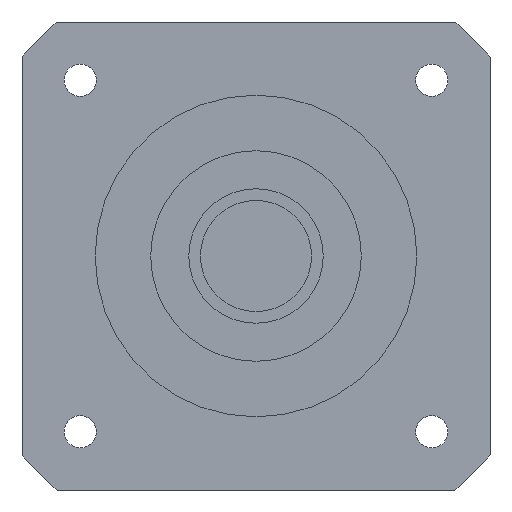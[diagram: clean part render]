
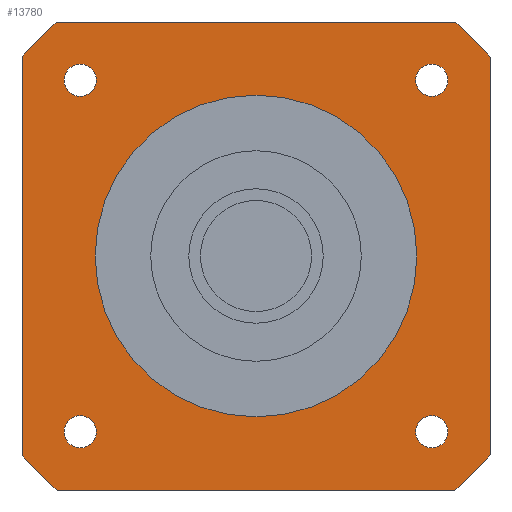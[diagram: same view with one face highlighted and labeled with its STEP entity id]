
A CAD part, left-side view. The second image highlights one B-rep face of the part: STEP entity #13780.
In plain terms, the highlighted planar face has unit normal (-1, 0, 0) as drawn and (0, 0, -1) by its records, which use the part's own axes.
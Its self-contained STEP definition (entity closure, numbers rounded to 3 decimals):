
#12150=CARTESIAN_POINT('',(-30.052,32.802,-42.2));
#12160=VERTEX_POINT('',#12150);
#12240=CARTESIAN_POINT('',(-30.052,27.302,-42.2));
#12250=VERTEX_POINT('',#12240);
#12280=CARTESIAN_POINT('',(-30.052,30.052,-42.2));
#12290=DIRECTION('',(0.,0.,1.));
#12300=DIRECTION('',(0.,1.,0.));
#12310=AXIS2_PLACEMENT_3D('',#12280,#12290,#12300);
#12320=CIRCLE('',#12310,2.75);
#12330=EDGE_CURVE('',#12250,#12160,#12320,.T.);
#12380=CARTESIAN_POINT('',(40.,-40.,-42.2));
#12390=DIRECTION('',(0.,0.,1.));
#12400=DIRECTION('',(0.,1.,0.));
#12410=AXIS2_PLACEMENT_3D('',#12380,#12390,#12400);
#12420=PLANE('',#12410);
#12430=CARTESIAN_POINT('',(-30.052,-30.052,-42.2));
#12440=DIRECTION('',(0.,0.,1.));
#12450=DIRECTION('',(0.,1.,0.));
#12460=AXIS2_PLACEMENT_3D('',#12430,#12440,#12450);
#12470=CIRCLE('',#12460,2.75);
#12480=CARTESIAN_POINT('',(-30.052,-27.302,-42.2));
#12490=VERTEX_POINT('',#12480);
#12500=CARTESIAN_POINT('',(-30.052,-32.802,-42.2));
#12510=VERTEX_POINT('',#12500);
#12520=EDGE_CURVE('',#12490,#12510,#12470,.T.);
#12530=ORIENTED_EDGE('',*,*,#12520,.T.);
#12540=EDGE_CURVE('',#12510,#12490,#12470,.T.);
#12550=ORIENTED_EDGE('',*,*,#12540,.T.);
#12560=EDGE_LOOP('',(#12550,#12530));
#12570=FACE_BOUND('',#12560,.T.);
#12580=CARTESIAN_POINT('',(30.052,30.052,-42.2));
#12590=DIRECTION('',(0.,0.,1.));
#12600=DIRECTION('',(0.,1.,0.));
#12610=AXIS2_PLACEMENT_3D('',#12580,#12590,#12600);
#12620=CIRCLE('',#12610,2.75);
#12630=CARTESIAN_POINT('',(30.052,32.802,-42.2));
#12640=VERTEX_POINT('',#12630);
#12650=CARTESIAN_POINT('',(30.052,27.302,-42.2));
#12660=VERTEX_POINT('',#12650);
#12670=EDGE_CURVE('',#12640,#12660,#12620,.T.);
#12680=ORIENTED_EDGE('',*,*,#12670,.T.);
#12690=EDGE_CURVE('',#12660,#12640,#12620,.T.);
#12700=ORIENTED_EDGE('',*,*,#12690,.T.);
#12710=EDGE_LOOP('',(#12700,#12680));
#12720=FACE_BOUND('',#12710,.T.);
#12730=EDGE_CURVE('',#12160,#12250,#12320,.T.);
#12740=ORIENTED_EDGE('',*,*,#12730,.T.);
#12750=ORIENTED_EDGE('',*,*,#12330,.T.);
#12760=EDGE_LOOP('',(#12750,#12740));
#12770=FACE_BOUND('',#12760,.T.);
#12780=CARTESIAN_POINT('',(0.,0.,
-42.2));
#12790=DIRECTION('',(0.,0.,1.));
#12800=DIRECTION('',(0.,-1.,0.));
#12810=AXIS2_PLACEMENT_3D('',#12780,#12790,#12800);
#12820=CIRCLE('',#12810,27.5);
#12830=CARTESIAN_POINT('',(0.,-27.5,-42.2));
#12840=VERTEX_POINT('',#12830);
#12850=CARTESIAN_POINT('',(0.,27.5,-42.2));
#12860=VERTEX_POINT('',#12850);
#12870=EDGE_CURVE('',#12840,#12860,#12820,.T.);
#12880=ORIENTED_EDGE('',*,*,#12870,.T.);
#12890=EDGE_CURVE('',#12860,#12840,#12820,.T.);
#12900=ORIENTED_EDGE('',*,*,#12890,.T.);
#12910=EDGE_LOOP('',(#12900,#12880));
#12920=FACE_BOUND('',#12910,.T.);
#12930=CARTESIAN_POINT('',(30.052,-30.052,-42.2));
#12940=DIRECTION('',(0.,0.,1.));
#12950=DIRECTION('',(0.,1.,0.));
#12960=AXIS2_PLACEMENT_3D('',#12930,#12940,#12950);
#12970=CIRCLE('',#12960,2.75);
#12980=CARTESIAN_POINT('',(30.052,-27.302,-42.2));
#12990=VERTEX_POINT('',#12980);
#13000=CARTESIAN_POINT('',(30.052,-32.802,-42.2));
#13010=VERTEX_POINT('',#13000);
#13020=EDGE_CURVE('',#12990,#13010,#12970,.T.);
#13030=ORIENTED_EDGE('',*,*,#13020,.T.);
#13040=EDGE_CURVE('',#13010,#12990,#12970,.T.);
#13050=ORIENTED_EDGE('',*,*,#13040,.T.);
#13060=EDGE_LOOP('',(#13050,#13030));
#13070=FACE_BOUND('',#13060,.T.);
#13080=CARTESIAN_POINT('',(0.,0.,
-42.2));
#13090=DIRECTION('',(0.,0.,1.));
#13100=DIRECTION('',(0.,1.,0.));
#13110=AXIS2_PLACEMENT_3D('',#13080,#13090,#13100);
#13120=CIRCLE('',#13110,52.5);
#13130=CARTESIAN_POINT('',(-34.004,40.,-42.2));
#13140=VERTEX_POINT('',#13130);
#13150=CARTESIAN_POINT('',(-40.,34.004,-42.2));
#13160=VERTEX_POINT('',#13150);
#13170=EDGE_CURVE('',#13140,#13160,#13120,.T.);
#13180=ORIENTED_EDGE('',*,*,#13170,.F.);
#13190=CARTESIAN_POINT('',(-40.,40.,-42.2));
#13200=DIRECTION('',(0.,-1.,0.));
#13210=VECTOR('',#13200,1000.);
#13220=LINE('',#13190,#13210);
#13230=CARTESIAN_POINT('',(-40.,-34.004,-42.2));
#13240=VERTEX_POINT('',#13230);
#13250=EDGE_CURVE('',#13160,#13240,#13220,.T.);
#13260=ORIENTED_EDGE('',*,*,#13250,.F.);
#13270=CARTESIAN_POINT('',(0.,0.,
-42.2));
#13280=DIRECTION('',(0.,0.,1.));
#13290=DIRECTION('',(0.,1.,0.));
#13300=AXIS2_PLACEMENT_3D('',#13270,#13280,#13290);
#13310=CIRCLE('',#13300,52.5);
#13320=CARTESIAN_POINT('',(-34.004,-40.,-42.2));
#13330=VERTEX_POINT('',#13320);
#13340=EDGE_CURVE('',#13240,#13330,#13310,.T.);
#13350=ORIENTED_EDGE('',*,*,#13340,.F.);
#13360=CARTESIAN_POINT('',(-40.,-40.,-42.2));
#13370=DIRECTION('',(1.,0.,0.));
#13380=VECTOR('',#13370,1000.);
#13390=LINE('',#13360,#13380);
#13400=CARTESIAN_POINT('',(34.004,-40.,-42.2));
#13410=VERTEX_POINT('',#13400);
#13420=EDGE_CURVE('',#13330,#13410,#13390,.T.);
#13430=ORIENTED_EDGE('',*,*,#13420,.F.);
#13440=CARTESIAN_POINT('',(0.,0.,
-42.2));
#13450=DIRECTION('',(0.,0.,1.));
#13460=DIRECTION('',(0.,1.,0.));
#13470=AXIS2_PLACEMENT_3D('',#13440,#13450,#13460);
#13480=CIRCLE('',#13470,52.5);
#13490=CARTESIAN_POINT('',(40.,-34.004,-42.2));
#13500=VERTEX_POINT('',#13490);
#13510=EDGE_CURVE('',#13410,#13500,#13480,.T.);
#13520=ORIENTED_EDGE('',*,*,#13510,.F.);
#13530=CARTESIAN_POINT('',(40.,-40.,-42.2));
#13540=DIRECTION('',(0.,1.,0.));
#13550=VECTOR('',#13540,1000.);
#13560=LINE('',#13530,#13550);
#13570=CARTESIAN_POINT('',(40.,34.004,-42.2));
#13580=VERTEX_POINT('',#13570);
#13590=EDGE_CURVE('',#13500,#13580,#13560,.T.);
#13600=ORIENTED_EDGE('',*,*,#13590,.F.);
#13610=CARTESIAN_POINT('',(0.,0.,
-42.2));
#13620=DIRECTION('',(0.,0.,1.));
#13630=DIRECTION('',(0.,1.,0.));
#13640=AXIS2_PLACEMENT_3D('',#13610,#13620,#13630);
#13650=CIRCLE('',#13640,52.5);
#13660=CARTESIAN_POINT('',(34.004,40.,-42.2));
#13670=VERTEX_POINT('',#13660);
#13680=EDGE_CURVE('',#13580,#13670,#13650,.T.);
#13690=ORIENTED_EDGE('',*,*,#13680,.F.);
#13700=CARTESIAN_POINT('',(40.,40.,-42.2));
#13710=DIRECTION('',(-1.,0.,0.));
#13720=VECTOR('',#13710,1000.);
#13730=LINE('',#13700,#13720);
#13740=EDGE_CURVE('',#13670,#13140,#13730,.T.);
#13750=ORIENTED_EDGE('',*,*,#13740,.F.);
#13760=EDGE_LOOP('',(#13750,#13690,#13600,#13520,#13430,#13350,#13260,
#13180));
#13770=FACE_OUTER_BOUND('',#13760,.T.);
#13780=ADVANCED_FACE('',(#12570,#12720,#12770,#12920,#13070,#13770),
#12420,.F.);
